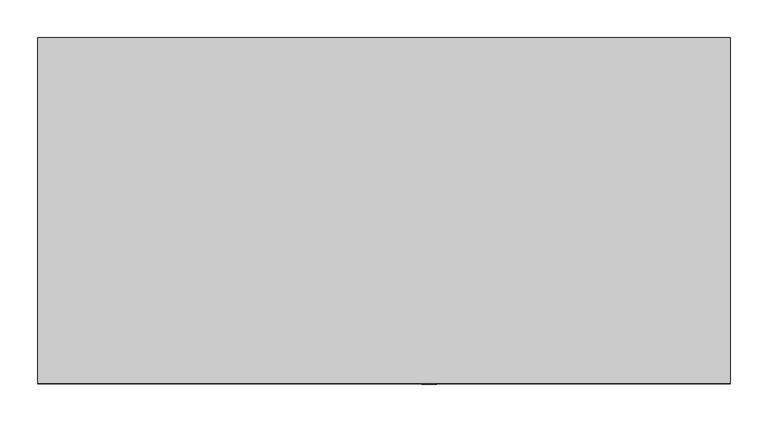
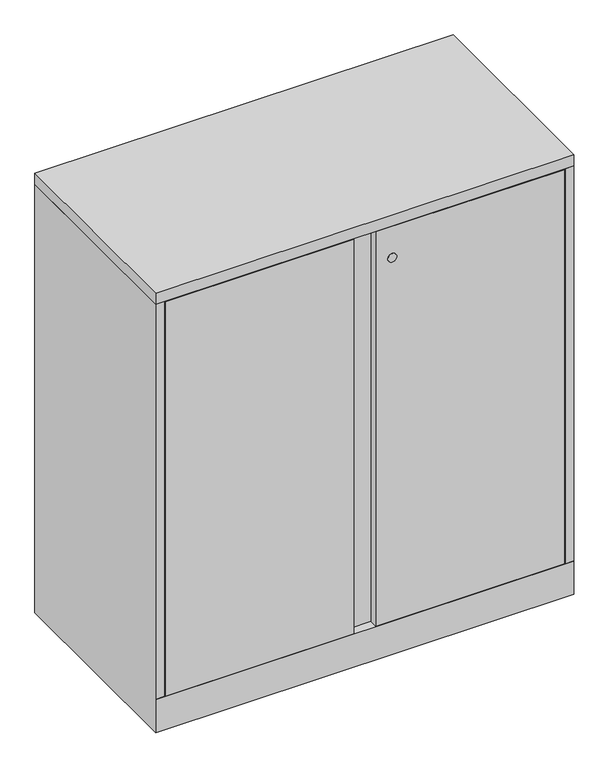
"""IFC4 building model written with IfcOpenShell, lengths in millimetres: furniture geometry, Steelcase - Universal Storage - Cabinet - Storage - 40H-52H - Flush Steel : 40H x 18D x 36W."""

from ifc_helpers import new_model, si_unit, point, frame, frame_2d, origin, place, context, project, spatial, polyline, circle_curve, trimmed, segment, composite_curve, outline, extrude, faceted_brep, source, transform, mapped, element, save


def furniture_e285b586(model_context):
    return source(origin(), model_context, "Body", "SolidModel", [
        extrude(outline(polyline([(914.4, 0.0), (914.4, -457.2), (0.0, -457.2), (0.0, 0.0), (914.4, 0.0)])), frame((0.0, 0.0, 990.6), z_axis=(0.0, 0.0, 1.0), x_axis=(1.0, 0.0, 0.0)), (0.0, 0.0, 1.0), 25.4000484),
        extrude(outline(composite_curve([segment(trimmed(circle_curve(frame_2d((917.575, 517.0109835)), 9.7167829), [point((917.575, 526.7277664))], [point((917.575, 507.2942006))], False, "CARTESIAN"), True, "CONTINUOUS"), segment(trimmed(circle_curve(frame_2d((917.575, 517.0109835)), 9.7167829), [point((917.575, 507.2942006))], [point((917.575, 526.7277664))], False, "CARTESIAN"), True, "CONTINUOUS")], self_intersect=False)), frame((0.0, -457.8695275, 0.0), z_axis=(0.0, 1.0, 0.0), x_axis=(0.0, 0.0, 1.0)), (0.0, 0.0, 1.0), 0.6695275),
        extrude(outline(polyline([(20.8280006, -431.673866), (893.572, -431.673866), (893.572, -457.2), (481.33, -457.2), (481.33, -438.0238781), (433.07, -438.0238781), (433.07, -457.2), (20.8280006, -457.2), (20.8280006, -431.673866)])), frame((0.0, 0.0, 77.724), z_axis=(0.0, 0.0, 1.0), x_axis=(1.0, 0.0, 0.0)), (0.0, 0.0, 1.0), 911.606),
        faceted_brep([(914.4, 0.0, 0.0), (914.4, -457.2, 0.0), (0.0, -457.2, 0.0), (0.0, 0.0, 0.0), (0.0, 0.0, 990.6), (914.4, 0.0, 990.6), (0.0, -457.2, 76.2), (0.0, -457.2, 77.724), (0.0, -457.2, 990.6), (914.4, -457.2, 76.2), (914.4, -457.2, 990.6), (914.4, -457.2, 77.724), (889.0000242, -25.4000008, 990.6), (889.0000242, -430.1498674, 990.6), (893.572, -430.1498674, 990.6), (893.572, -431.6738781, 990.6), (895.096, -431.6738781, 990.6), (895.096, -457.2, 990.6), (19.304, -457.2, 990.6), (19.304, -431.673866, 990.6), (20.8280006, -431.673866, 990.6), (20.8280006, -430.1498674, 990.6), (25.4000008, -430.1498674, 990.6), (25.4000008, -25.4000008, 990.6), (19.304, -457.2, 77.724), (19.304, -437.896, 77.724), (895.096, -457.2, 77.724), (895.096, -437.7698418, 77.724), (889.0000242, -25.4000008, 77.724), (889.0000242, -430.1498674, 77.724), (893.572, -430.1498674, 77.724), (893.572, -431.6738781, 77.724), (895.096, -431.6738781, 77.724), (19.304, -431.673866, 77.724), (20.8280006, -431.673866, 77.724), (20.8280006, -430.1498674, 77.724), (25.4000008, -430.1498674, 77.724), (25.4000008, -25.4000008, 77.724), (25.526134, -431.673866, 77.724), (889.0000242, -431.673866, 77.724)], [[[0, 1, 2, 3]], [[0, 3, 4, 5]], [[4, 3, 2, 6, 7, 8]], [[2, 1, 9, 6]], [[1, 0, 5, 10, 11, 9]], [[12, 13, 14, 15, 16, 17, 10, 5, 4, 8, 18, 19, 20, 21, 22, 23]], [[24, 7, 25]], [[11, 26, 27]], [[13, 12, 28, 29]], [[14, 13, 29, 30]], [[15, 14, 30, 31]], [[16, 15, 31, 32]], [[17, 16, 32, 27, 26]], [[10, 17, 26, 11]], [[18, 8, 7, 24]], [[19, 18, 24, 25, 33]], [[20, 19, 33, 34]], [[21, 20, 34, 35]], [[22, 21, 35, 36]], [[23, 22, 36, 37]], [[12, 23, 37, 28]], [[38, 39, 27, 32, 31, 30, 29, 28, 37, 36, 35, 34, 33, 25]], [[7, 6, 38, 25]], [[39, 38, 6, 9]], [[39, 9, 11, 27]]]),
    ])


if __name__ == "__main__":
    model = new_model("IFC4")
    model_context = context("Model", 3, world=origin())
    ifc_project = project(units=[si_unit("LENGTHUNIT", "METRE", prefix="MILLI")], contexts=[model_context])
    site = spatial("IfcSite", under=ifc_project)
    building = spatial("IfcBuilding", under=site)
    placement = place(None, origin())
    furniture_shape = furniture_e285b586(model_context)
    element("IfcFurniture", 1, ObjectType="Steelcase - Universal Storage - Cabinet - Storage - 40H-52H - Flush Steel : 40H x 18D x 36W", at=placement, inside=building, context=model_context, shape_type="MappedRepresentation", body=[
        mapped(furniture_shape, transform((0.0, 0.0, 0.0), x_axis=(1.0, 0.0, 0.0), y_axis=(0.0, 1.0, 0.0), z_axis=(0.0, 0.0, 1.0))),
    ])
    save(model, "model.ifc")
